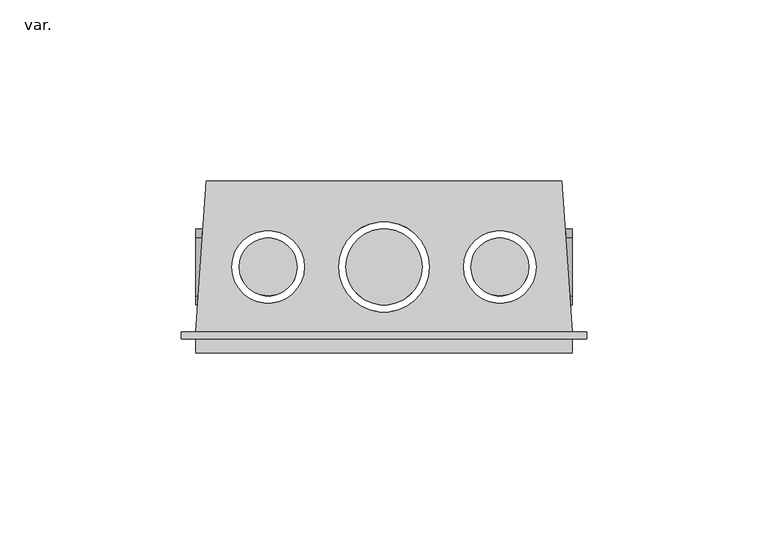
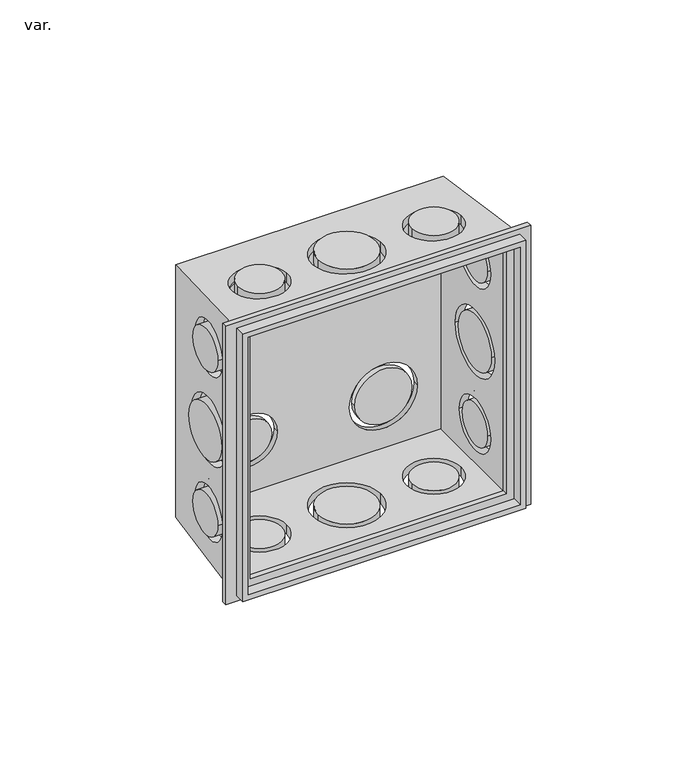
"""IFC4 building model written with IfcOpenShell, lengths in millimetres: pipe fitting geometry, AmancoWavin_ConexõesdoConduite_LinhaEletricaSoldRoscCaixa4x4 : var.."""

from ifc_helpers import new_model, si_unit, point, frame, frame_2d, origin, place, context, project, spatial, polyline, circle_curve, ellipse_curve, trimmed, segment, composite_curve, outline, extrude, source, transform, mapped, element, save
from ifc_brep_helpers import plane_surface, cylinder_surface, revolved_surface, advanced_brep


def var_4e7530ae(model_context):
    return source(origin(), model_context, "Body", "SolidModel", [
        extrude(outline(composite_curve([segment(trimmed(circle_curve(frame_2d((23.75, 32.0)), 8.0), [point((31.75, 32.0))], [point((15.75, 32.0))], False, "CARTESIAN"), True, "CONTINUOUS"), segment(trimmed(circle_curve(frame_2d((23.75, 32.0)), 8.0), [point((15.75, 32.0))], [point((31.75, 32.0))], False, "CARTESIAN"), True, "CONTINUOUS")], self_intersect=False)), frame((47.0840519, 0.0, 0.0), z_axis=(1.0, 0.0, 0.0), x_axis=(0.0, 1.0, 0.0)), (0.0, 0.0, 1.0), 4.9159481),
        extrude(outline(composite_curve([segment(trimmed(circle_curve(frame_2d((23.75, 0.0)), 10.5), [point((34.25, 0.0))], [point((13.25, 0.0))], False, "CARTESIAN"), True, "CONTINUOUS"), segment(trimmed(circle_curve(frame_2d((23.75, 0.0)), 10.5), [point((13.25, 0.0))], [point((34.25, 0.0))], False, "CARTESIAN"), True, "CONTINUOUS")], self_intersect=False)), frame((47.0840519, 0.0, 0.0), z_axis=(1.0, 0.0, 0.0), x_axis=(0.0, 1.0, 0.0)), (0.0, 0.0, 1.0), 4.9159481),
        extrude(outline(composite_curve([segment(trimmed(circle_curve(frame_2d((23.75, -32.0)), 8.0), [point((31.75, -32.0))], [point((15.75, -32.0))], False, "CARTESIAN"), True, "CONTINUOUS"), segment(trimmed(circle_curve(frame_2d((23.75, -32.0)), 8.0), [point((15.75, -32.0))], [point((31.75, -32.0))], False, "CARTESIAN"), True, "CONTINUOUS")], self_intersect=False)), frame((47.0840519, 0.0, 0.0), z_axis=(1.0, 0.0, 0.0), x_axis=(0.0, 1.0, 0.0)), (0.0, 0.0, 1.0), 4.9159481),
        extrude(outline(composite_curve([segment(trimmed(circle_curve(frame_2d((23.75, 32.0)), 8.0), [point((31.75, 32.0))], [point((15.75, 32.0))], False, "CARTESIAN"), True, "CONTINUOUS"), segment(trimmed(circle_curve(frame_2d((23.75, 32.0)), 8.0), [point((15.75, 32.0))], [point((31.75, 32.0))], False, "CARTESIAN"), True, "CONTINUOUS")], self_intersect=False)), frame((-52.0, 0.0, 0.0), z_axis=(1.0, 0.0, 0.0), x_axis=(0.0, 1.0, 0.0)), (0.0, 0.0, 1.0), 4.9159481),
        extrude(outline(composite_curve([segment(trimmed(circle_curve(frame_2d((23.75, 0.0)), 10.5), [point((34.25, 0.0))], [point((13.25, 0.0))], False, "CARTESIAN"), True, "CONTINUOUS"), segment(trimmed(circle_curve(frame_2d((23.75, 0.0)), 10.5), [point((13.25, 0.0))], [point((34.25, 0.0))], False, "CARTESIAN"), True, "CONTINUOUS")], self_intersect=False)), frame((-52.0, 0.0, 0.0), z_axis=(1.0, 0.0, 0.0), x_axis=(0.0, 1.0, 0.0)), (0.0, 0.0, 1.0), 4.9159481),
        extrude(outline(composite_curve([segment(trimmed(circle_curve(frame_2d((23.75, -32.0)), 8.0), [point((31.75, -32.0))], [point((15.75, -32.0))], False, "CARTESIAN"), True, "CONTINUOUS"), segment(trimmed(circle_curve(frame_2d((23.75, -32.0)), 8.0), [point((15.75, -32.0))], [point((31.75, -32.0))], False, "CARTESIAN"), True, "CONTINUOUS")], self_intersect=False)), frame((-52.0, 0.0, 0.0), z_axis=(1.0, 0.0, 0.0), x_axis=(0.0, 1.0, 0.0)), (0.0, 0.0, 1.0), 4.9159481),
        extrude(outline(polyline([(-52.0, -52.0), (-52.0, 52.0), (52.0, 52.0), (52.0, -52.0), (-52.0, -52.0)]), holes=[polyline([(-50.0, -50.0), (50.0, -50.0), (50.0, 50.0), (-50.0, 50.0), (-50.0, -50.0)])]), frame((0.0, 0.0, 0.0), z_axis=(0.0, 1.0, 0.0), x_axis=(0.0, 0.0, 1.0)), (0.0, 0.0, 1.0), 3.8),
        extrude(outline(polyline([(54.15, 56.0), (54.15, -56.0), (-54.15, -56.0), (-54.15, 56.0), (54.15, 56.0)]), holes=[polyline([(-47.0840519, -47.0840519), (47.0840519, -47.0840519), (47.0840519, 47.0840519), (-47.0840519, 47.0840519), (-47.0840519, -47.0840519)])]), frame((0.0, 3.8, 0.0), z_axis=(0.0, 1.0, 0.0), x_axis=(0.0, 0.0, 1.0)), (0.0, 0.0, 1.0), 2.0),
        advanced_brep(
        [(49.0840519, 47.5, 49.0840519), (49.0840519, 47.5, -49.0840519), (-49.0840519, 47.5, -49.0840519), (-49.0840519, 47.5, 49.0840519), (-35.5, 47.5, 27.08), (-10.5, 47.5, 27.08), (-33.0, 47.5, -27.08), (-13.0, 47.5, -27.08), (16.0, 47.5, 27.08), (36.0, 47.5, 27.08), (13.5, 47.5, -27.08), (38.5, 47.5, -27.08), (52.0, 5.8, 52.0), (-52.0, 5.8, 52.0), (-52.0, 5.8, -52.0), (52.0, 5.8, -52.0), (47.0840519, 5.8, 47.0840519), (47.0840519, 5.8, -47.0840519), (-47.0840519, 5.8, -47.0840519), (-47.0840519, 5.8, 47.0840519), (50.0455456, 33.75, 32.0), (51.4440818, 13.75, 32.0), (49.8707286, 36.25, 0.0), (51.6188989, 11.25, 0.0), (50.0455456, 33.75, -32.0), (51.4440818, 13.75, -32.0), (-12.5, 23.75, -50.7448137), (12.5, 23.75, -50.7448137), (-42.0, 23.75, -50.7448137), (-22.0, 23.75, -50.7448137), (22.0, 23.75, -50.7448137), (42.0, 23.75, -50.7448137), (-51.4440818, 13.75, 32.0), (-50.0455456, 33.75, 32.0), (-51.6188989, 11.25, 0.0), (-49.8707286, 36.25, 0.0), (-51.4440818, 13.75, -32.0), (-50.0455456, 33.75, -32.0), (12.5, 23.75, 50.7448137), (-12.5, 23.75, 50.7448137), (-22.0, 23.75, 50.7448137), (-42.0, 23.75, 50.7448137), (42.0, 23.75, 50.7448137), (22.0, 23.75, 50.7448137), (47.0840519, 45.5, 47.0840519), (-47.0840519, 45.5, 47.0840519), (-47.0840519, 45.5, -47.0840519), (47.0840519, 45.5, -47.0840519), (-10.5, 45.5, 27.08), (-35.5, 45.5, 27.08), (-13.0, 45.5, -27.08), (-33.0, 45.5, -27.08), (36.0, 45.5, 27.08), (16.0, 45.5, 27.08), (38.5, 45.5, -27.08), (13.5, 45.5, -27.08), (47.0840519, 13.75, 32.0), (47.0840519, 33.75, 32.0), (47.0840519, 11.25, 0.0), (47.0840519, 36.25, 0.0), (47.0840519, 13.75, -32.0), (47.0840519, 33.75, -32.0), (12.5, 23.75, -47.0840519), (-12.5, 23.75, -47.0840519), (-22.0, 23.75, -47.0840519), (-42.0, 23.75, -47.0840519), (42.0, 23.75, -47.0840519), (22.0, 23.75, -47.0840519), (-47.0840519, 33.75, 32.0), (-47.0840519, 13.75, 32.0), (-47.0840519, 36.25, 0.0), (-47.0840519, 11.25, 0.0), (-47.0840519, 33.75, -32.0), (-47.0840519, 13.75, -32.0), (-12.5, 23.75, 47.0840519), (12.5, 23.75, 47.0840519), (-42.0, 23.75, 47.0840519), (-22.0, 23.75, 47.0840519), (22.0, 23.75, 47.0840519), (42.0, 23.75, 47.0840519)],
        [
            (0, 1),
            (1, 2),
            (2, 3),
            (3, 0),
            (4, 5, circle_curve(frame((-23.0, 47.5, 27.08), z_axis=(0.0, -1.0, 0.0), x_axis=(-1.0, 0.0, 0.0)), 12.5)),
            (5, 4, circle_curve(frame((-23.0, 47.5, 27.08), z_axis=(0.0, -1.0, 0.0), x_axis=(-1.0, 0.0, 0.0)), 12.5)),
            (6, 7, circle_curve(frame((-23.0, 47.5, -27.08), z_axis=(0.0, -1.0, 0.0), x_axis=(-1.0, 0.0, 0.0)), 10.0)),
            (7, 6, circle_curve(frame((-23.0, 47.5, -27.08), z_axis=(0.0, -1.0, 0.0), x_axis=(-1.0, 0.0, 0.0)), 10.0)),
            (8, 9, circle_curve(frame((26.0, 47.5, 27.08), z_axis=(0.0, -1.0, 0.0), x_axis=(-1.0, 0.0, 0.0)), 10.0)),
            (9, 8, circle_curve(frame((26.0, 47.5, 27.08), z_axis=(0.0, -1.0, 0.0), x_axis=(-1.0, 0.0, 0.0)), 10.0)),
            (10, 11, circle_curve(frame((26.0, 47.5, -27.08), z_axis=(0.0, -1.0, 0.0), x_axis=(-1.0, 0.0, 0.0)), 12.5)),
            (11, 10, circle_curve(frame((26.0, 47.5, -27.08), z_axis=(0.0, -1.0, 0.0), x_axis=(-1.0, 0.0, 0.0)), 12.5)),
            (12, 13),
            (13, 14),
            (14, 15),
            (15, 12),
            (16, 17),
            (17, 18),
            (18, 19),
            (19, 16),
            (0, 12),
            (15, 1),
            (20, 21, ellipse_curve(frame((50.7448137, 23.75, 32.0), z_axis=(-0.9975640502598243, -0.06975647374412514, 0.0), x_axis=(-0.06975647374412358, 0.9975640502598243, 0.0)), 10.024419, 10.0)),
            (21, 20, ellipse_curve(frame((50.7448137, 23.75, 32.0), z_axis=(-0.9975640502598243, -0.06975647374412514, 0.0), x_axis=(-0.06975647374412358, 0.9975640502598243, 0.0)), 10.024419, 10.0)),
            (22, 23, ellipse_curve(frame((50.7448137, 23.75, 0.0), z_axis=(-0.9975640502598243, -0.06975647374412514, 0.0), x_axis=(-0.06975647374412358, 0.9975640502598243, 0.0)), 12.5305237, 12.5)),
            (23, 22, ellipse_curve(frame((50.7448137, 23.75, 0.0), z_axis=(-0.9975640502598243, -0.06975647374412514, 0.0), x_axis=(-0.06975647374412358, 0.9975640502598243, 0.0)), 12.5305237, 12.5)),
            (24, 25, ellipse_curve(frame((50.7448137, 23.75, -32.0), z_axis=(-0.9975640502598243, -0.06975647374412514, 0.0), x_axis=(-0.06975647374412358, 0.9975640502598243, 0.0)), 10.024419, 10.0)),
            (25, 24, ellipse_curve(frame((50.7448137, 23.75, -32.0), z_axis=(-0.9975640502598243, -0.06975647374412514, 0.0), x_axis=(-0.06975647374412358, 0.9975640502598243, 0.0)), 10.024419, 10.0)),
            (14, 2),
            (26, 27, ellipse_curve(frame((0.0, 23.75, -50.7448137), z_axis=(0.0, -0.06975647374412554, 0.9975640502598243), x_axis=(0.0, 0.9975640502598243, 0.06975647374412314)), 12.5305237, 12.5)),
            (27, 26, ellipse_curve(frame((0.0, 23.75, -50.7448137), z_axis=(0.0, -0.06975647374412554, 0.9975640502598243), x_axis=(0.0, 0.9975640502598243, 0.06975647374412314)), 12.5305237, 12.5)),
            (28, 29, ellipse_curve(frame((-32.0, 23.75, -50.7448137), z_axis=(0.0, -0.06975647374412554, 0.9975640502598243), x_axis=(0.0, 0.9975640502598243, 0.06975647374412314)), 10.024419, 10.0)),
            (29, 28, ellipse_curve(frame((-32.0, 23.75, -50.7448137), z_axis=(0.0, -0.06975647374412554, 0.9975640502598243), x_axis=(0.0, 0.9975640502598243, 0.06975647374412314)), 10.024419, 10.0)),
            (30, 31, ellipse_curve(frame((32.0, 23.75, -50.7448137), z_axis=(0.0, -0.06975647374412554, 0.9975640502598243), x_axis=(0.0, 0.9975640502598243, 0.06975647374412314)), 10.024419, 10.0)),
            (31, 30, ellipse_curve(frame((32.0, 23.75, -50.7448137), z_axis=(0.0, -0.06975647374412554, 0.9975640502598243), x_axis=(0.0, 0.9975640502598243, 0.06975647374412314)), 10.024419, 10.0)),
            (13, 3),
            (32, 33, ellipse_curve(frame((-50.7448137, 23.75, 32.0), z_axis=(0.9975640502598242, -0.06975647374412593, 0.0), x_axis=(-0.06975647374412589, -0.9975640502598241, 0.0)), 10.024419, 10.0)),
            (33, 32, ellipse_curve(frame((-50.7448137, 23.75, 32.0), z_axis=(0.9975640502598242, -0.06975647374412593, 0.0), x_axis=(-0.06975647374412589, -0.9975640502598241, 0.0)), 10.024419, 10.0)),
            (34, 35, ellipse_curve(frame((-50.7448137, 23.75, 0.0), z_axis=(0.9975640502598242, -0.06975647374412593, 0.0), x_axis=(-0.06975647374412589, -0.9975640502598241, 0.0)), 12.5305237, 12.5)),
            (35, 34, ellipse_curve(frame((-50.7448137, 23.75, 0.0), z_axis=(0.9975640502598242, -0.06975647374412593, 0.0), x_axis=(-0.06975647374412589, -0.9975640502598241, 0.0)), 12.5305237, 12.5)),
            (36, 37, ellipse_curve(frame((-50.7448137, 23.75, -32.0), z_axis=(0.9975640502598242, -0.06975647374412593, 0.0), x_axis=(-0.06975647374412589, -0.9975640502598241, 0.0)), 10.024419, 10.0)),
            (37, 36, ellipse_curve(frame((-50.7448137, 23.75, -32.0), z_axis=(0.9975640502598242, -0.06975647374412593, 0.0), x_axis=(-0.06975647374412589, -0.9975640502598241, 0.0)), 10.024419, 10.0)),
            (38, 39, ellipse_curve(frame((0.0, 23.75, 50.7448137), z_axis=(0.0, -0.06975647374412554, -0.9975640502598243), x_axis=(0.0, -0.9975640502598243, 0.06975647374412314)), 12.5305237, 12.5)),
            (39, 38, ellipse_curve(frame((0.0, 23.75, 50.7448137), z_axis=(0.0, -0.06975647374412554, -0.9975640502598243), x_axis=(0.0, -0.9975640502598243, 0.06975647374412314)), 12.5305237, 12.5)),
            (40, 41, ellipse_curve(frame((-32.0, 23.75, 50.7448137), z_axis=(0.0, -0.06975647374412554, -0.9975640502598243), x_axis=(0.0, -0.9975640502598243, 0.06975647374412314)), 10.024419, 10.0)),
            (41, 40, ellipse_curve(frame((-32.0, 23.75, 50.7448137), z_axis=(0.0, -0.06975647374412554, -0.9975640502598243), x_axis=(0.0, -0.9975640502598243, 0.06975647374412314)), 10.024419, 10.0)),
            (42, 43, ellipse_curve(frame((32.0, 23.75, 50.7448137), z_axis=(0.0, -0.06975647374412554, -0.9975640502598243), x_axis=(0.0, -0.9975640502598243, 0.06975647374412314)), 10.024419, 10.0)),
            (43, 42, ellipse_curve(frame((32.0, 23.75, 50.7448137), z_axis=(0.0, -0.06975647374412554, -0.9975640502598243), x_axis=(0.0, -0.9975640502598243, 0.06975647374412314)), 10.024419, 10.0)),
            (44, 45),
            (45, 46),
            (46, 47),
            (47, 44),
            (48, 49, circle_curve(frame((-23.0, 45.5, 27.08), z_axis=(0.0, 1.0, 0.0), x_axis=(-1.0, 0.0, 0.0)), 12.5)),
            (49, 48, circle_curve(frame((-23.0, 45.5, 27.08), z_axis=(0.0, 1.0, 0.0), x_axis=(-1.0, 0.0, 0.0)), 12.5)),
            (50, 51, circle_curve(frame((-23.0, 45.5, -27.08), z_axis=(0.0, 1.0, 0.0), x_axis=(-1.0, 0.0, 0.0)), 10.0)),
            (51, 50, circle_curve(frame((-23.0, 45.5, -27.08), z_axis=(0.0, 1.0, 0.0), x_axis=(-1.0, 0.0, 0.0)), 10.0)),
            (52, 53, circle_curve(frame((26.0, 45.5, 27.08), z_axis=(0.0, 1.0, 0.0), x_axis=(-1.0, 0.0, 0.0)), 10.0)),
            (53, 52, circle_curve(frame((26.0, 45.5, 27.08), z_axis=(0.0, 1.0, 0.0), x_axis=(-1.0, 0.0, 0.0)), 10.0)),
            (54, 55, circle_curve(frame((26.0, 45.5, -27.08), z_axis=(0.0, 1.0, 0.0), x_axis=(-1.0, 0.0, 0.0)), 12.5)),
            (55, 54, circle_curve(frame((26.0, 45.5, -27.08), z_axis=(0.0, 1.0, 0.0), x_axis=(-1.0, 0.0, 0.0)), 12.5)),
            (47, 17),
            (16, 44),
            (56, 57, circle_curve(frame((47.0840519, 23.75, 32.0), z_axis=(1.0, 0.0, 0.0), x_axis=(0.0, -1.0, 0.0)), 10.0)),
            (57, 56, circle_curve(frame((47.0840519, 23.75, 32.0), z_axis=(1.0, 0.0, 0.0), x_axis=(0.0, -1.0, 0.0)), 10.0)),
            (58, 59, circle_curve(frame((47.0840519, 23.75, 0.0), z_axis=(1.0, 0.0, 0.0), x_axis=(0.0, -1.0, 0.0)), 12.5)),
            (59, 58, circle_curve(frame((47.0840519, 23.75, 0.0), z_axis=(1.0, 0.0, 0.0), x_axis=(0.0, -1.0, 0.0)), 12.5)),
            (60, 61, circle_curve(frame((47.0840519, 23.75, -32.0), z_axis=(1.0, 0.0, 0.0), x_axis=(0.0, -1.0, 0.0)), 10.0)),
            (61, 60, circle_curve(frame((47.0840519, 23.75, -32.0), z_axis=(1.0, 0.0, 0.0), x_axis=(0.0, -1.0, 0.0)), 10.0)),
            (46, 18),
            (62, 63, circle_curve(frame((0.0, 23.75, -47.0840519), z_axis=(0.0, 0.0, -1.0), x_axis=(1.0, 0.0, 0.0)), 12.5)),
            (63, 62, circle_curve(frame((0.0, 23.75, -47.0840519), z_axis=(0.0, 0.0, -1.0), x_axis=(1.0, 0.0, 0.0)), 12.5)),
            (64, 65, circle_curve(frame((-32.0, 23.75, -47.0840519), z_axis=(0.0, 0.0, -1.0), x_axis=(1.0, 0.0, 0.0)), 10.0)),
            (65, 64, circle_curve(frame((-32.0, 23.75, -47.0840519), z_axis=(0.0, 0.0, -1.0), x_axis=(1.0, 0.0, 0.0)), 10.0)),
            (66, 67, circle_curve(frame((32.0, 23.75, -47.0840519), z_axis=(0.0, 0.0, -1.0), x_axis=(1.0, 0.0, 0.0)), 10.0)),
            (67, 66, circle_curve(frame((32.0, 23.75, -47.0840519), z_axis=(0.0, 0.0, -1.0), x_axis=(1.0, 0.0, 0.0)), 10.0)),
            (45, 19),
            (68, 69, circle_curve(frame((-47.0840519, 23.75, 32.0), z_axis=(-1.0, 0.0, 0.0), x_axis=(0.0, -1.0, 0.0)), 10.0)),
            (69, 68, circle_curve(frame((-47.0840519, 23.75, 32.0), z_axis=(-1.0, 0.0, 0.0), x_axis=(0.0, -1.0, 0.0)), 10.0)),
            (70, 71, circle_curve(frame((-47.0840519, 23.75, 0.0), z_axis=(-1.0, 0.0, 0.0), x_axis=(0.0, -1.0, 0.0)), 12.5)),
            (71, 70, circle_curve(frame((-47.0840519, 23.75, 0.0), z_axis=(-1.0, 0.0, 0.0), x_axis=(0.0, -1.0, 0.0)), 12.5)),
            (72, 73, circle_curve(frame((-47.0840519, 23.75, -32.0), z_axis=(-1.0, 0.0, 0.0), x_axis=(0.0, -1.0, 0.0)), 10.0)),
            (73, 72, circle_curve(frame((-47.0840519, 23.75, -32.0), z_axis=(-1.0, 0.0, 0.0), x_axis=(0.0, -1.0, 0.0)), 10.0)),
            (74, 75, circle_curve(frame((0.0, 23.75, 47.0840519), z_axis=(0.0, 0.0, 1.0), x_axis=(1.0, 0.0, 0.0)), 12.5)),
            (75, 74, circle_curve(frame((0.0, 23.75, 47.0840519), z_axis=(0.0, 0.0, 1.0), x_axis=(1.0, 0.0, 0.0)), 12.5)),
            (76, 77, circle_curve(frame((-32.0, 23.75, 47.0840519), z_axis=(0.0, 0.0, 1.0), x_axis=(1.0, 0.0, 0.0)), 10.0)),
            (77, 76, circle_curve(frame((-32.0, 23.75, 47.0840519), z_axis=(0.0, 0.0, 1.0), x_axis=(1.0, 0.0, 0.0)), 10.0)),
            (78, 79, circle_curve(frame((32.0, 23.75, 47.0840519), z_axis=(0.0, 0.0, 1.0), x_axis=(1.0, 0.0, 0.0)), 10.0)),
            (79, 78, circle_curve(frame((32.0, 23.75, 47.0840519), z_axis=(0.0, 0.0, 1.0), x_axis=(1.0, 0.0, 0.0)), 10.0)),
            (4, 49),
            (48, 5),
            (6, 51),
            (50, 7),
            (8, 53),
            (52, 9),
            (10, 55),
            (54, 11),
            (26, 63),
            (62, 27),
            (38, 75),
            (74, 39),
            (28, 65),
            (64, 29),
            (40, 77),
            (76, 41),
            (30, 67),
            (66, 31),
            (42, 79),
            (78, 43),
            (20, 57),
            (56, 21),
            (32, 69),
            (68, 33),
            (22, 59),
            (58, 23),
            (34, 71),
            (70, 35),
            (24, 61),
            (60, 25),
            (36, 73),
            (72, 37),
        ],
        [
            plane_surface(frame((0.0, 47.5, 0.0), z_axis=(0.0, 1.0, 0.0), x_axis=(0.0, 0.0, -1.0))),
            plane_surface(frame((0.0, 5.8, 0.0), z_axis=(0.0, -1.0, 0.0), x_axis=(0.0, 0.0, -1.0))),
            plane_surface(frame((52.0, 5.8, 0.0), z_axis=(0.9975640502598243, 0.06975647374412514, 0.0), x_axis=(0.0, 0.0, -1.0))),
            plane_surface(frame((0.0, 5.8, -52.0), z_axis=(0.0, 0.06975647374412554, -0.9975640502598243), x_axis=(-1.0, 0.0, 0.0))),
            plane_surface(frame((-52.0, 5.8, 0.0), z_axis=(-0.9975640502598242, 0.06975647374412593, 0.0), x_axis=(0.0, 0.0, 1.0))),
            plane_surface(frame((0.0, 5.8, 52.0), z_axis=(0.0, 0.06975647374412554, 0.9975640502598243), x_axis=(1.0, 0.0, 0.0))),
            plane_surface(frame((47.0840519, 45.5, 47.0840519), z_axis=(0.0, -1.0, 0.0), x_axis=(0.0, 0.0, -1.0))),
            plane_surface(frame((47.0840519, 45.5, 47.0840519), z_axis=(-1.0, 0.0, 0.0), x_axis=(0.0, -1.0, 0.0))),
            plane_surface(frame((47.0840519, 45.5, -47.0840519), z_axis=(0.0, 0.0, 1.0), x_axis=(0.0, -1.0, 0.0))),
            plane_surface(frame((-47.0840519, 45.5, -47.0840519), z_axis=(1.0, 0.0, 0.0), x_axis=(0.0, -1.0, 0.0))),
            plane_surface(frame((-47.0840519, 45.5, 47.0840519), z_axis=(0.0, 0.0, -1.0), x_axis=(0.0, -1.0, 0.0))),
            revolved_surface(polyline([(-35.5, 47.5, 27.08), (-35.5, 45.5, 27.08)]), (-23.0, 45.5, 27.08), (0.0, 1.0, 0.0)),
            revolved_surface(polyline([(-33.0, 47.5, -27.08), (-33.0, 45.5, -27.08)]), (-23.0, 0.0, -27.08), (0.0, 1.0, 0.0)),
            revolved_surface(polyline([(16.0, 47.5, 27.08), (16.0, 45.5, 27.08)]), (26.0, 0.0, 27.08), (0.0, 1.0, 0.0)),
            revolved_surface(polyline([(13.5, 47.5, -27.08), (13.5, 45.5, -27.08)]), (26.0, 0.0, -27.08), (0.0, 1.0, 0.0)),
            revolved_surface(polyline([(12.5, 23.75, -47.0840519), (12.5, 23.75, -51.618898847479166)]), (0.0, 23.75, -52.0), (0.0, 0.0, 1.0)),
            revolved_surface(polyline([(12.5, 23.75, 51.61889884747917), (12.5, 23.75, 47.08405189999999)]), (0.0, 23.75, -52.0), (0.0, 0.0, 1.0)),
            revolved_surface(polyline([(-22.0, 23.75, -47.0840519), (-22.0, 23.75, -51.44408182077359)]), (-32.0, 23.75, 0.0), (0.0, 0.0, 1.0)),
            revolved_surface(polyline([(-22.0, 23.75, 51.44408182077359), (-22.0, 23.75, 47.0840519)]), (-32.0, 23.75, 0.0), (0.0, 0.0, 1.0)),
            revolved_surface(polyline([(42.0, 23.75, -47.0840519), (42.0, 23.75, -51.44408182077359)]), (32.0, 23.75, 0.0), (0.0, 0.0, 1.0)),
            revolved_surface(polyline([(42.0, 23.75, 51.44408182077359), (42.0, 23.75, 47.0840519)]), (32.0, 23.75, 0.0), (0.0, 0.0, 1.0)),
            revolved_surface(polyline([(47.0840519, 13.75, 32.0), (51.4440818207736, 13.75, 32.0)]), (64.076345, 23.75, 32.0), (-1.0, 0.0, 0.0)),
            revolved_surface(polyline([(-51.44408182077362, 13.75, 32.0), (-47.08405189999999, 13.75, 32.0)]), (64.076345, 23.75, 32.0), (-1.0, 0.0, 0.0)),
            revolved_surface(polyline([(47.0840519, 11.25, 0.0), (51.6188989, 11.25, 0.0)]), (0.0, 23.75, 0.0), (-1.0, 0.0, 0.0)),
            revolved_surface(polyline([(-51.6188989, 11.25, 0.0), (-47.0840519, 11.25, 0.0)]), (0.0, 23.75, 0.0), (-1.0, 0.0, 0.0)),
            revolved_surface(polyline([(47.0840519, 13.75, -32.0), (51.4440818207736, 13.75, -32.0)]), (0.0, 23.75, -32.0), (-1.0, 0.0, 0.0)),
            revolved_surface(polyline([(-51.44408182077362, 13.75, -32.0), (-47.0840519, 13.75, -32.0)]), (0.0, 23.75, -32.0), (-1.0, 0.0, 0.0)),
        ],
        [
            (0, [[1, 2, 3, 4], [5, 6], [7, 8], [9, 10], [11, 12]]),
            (1, [[13, 14, 15, 16], [17, 18, 19, 20]]),
            (2, [[-1, 21, -16, 22], [23, 24], [25, 26], [27, 28]]),
            (3, [[-2, -22, -15, 29], [30, 31], [32, 33], [34, 35]]),
            (4, [[-3, -29, -14, 36], [37, 38], [39, 40], [41, 42]]),
            (5, [[-4, -36, -13, -21], [43, 44], [45, 46], [47, 48]]),
            (6, [[49, 50, 51, 52], [53, 54], [55, 56], [57, 58], [59, 60]]),
            (7, [[-52, 61, -17, 62], [63, 64], [65, 66], [67, 68]]),
            (8, [[-51, 69, -18, -61], [70, 71], [72, 73], [74, 75]]),
            (9, [[-50, 76, -19, -69], [77, 78], [79, 80], [81, 82]]),
            (10, [[-49, -62, -20, -76], [83, 84], [85, 86], [87, 88]]),
            (11, [[89, -53, 90, -5]]),
            (11, [[-89, -6, -90, -54]]),
            (12, [[91, -55, 92, -7]]),
            (12, [[-91, -8, -92, -56]]),
            (13, [[93, -57, 94, -9]]),
            (13, [[-93, -10, -94, -58]]),
            (14, [[95, -59, 96, -11]]),
            (14, [[-95, -12, -96, -60]]),
            (15, [[-30, 97, -70, 98]]),
            (16, [[-43, 99, -83, 100]]),
            (15, [[-31, -98, -71, -97]]),
            (16, [[-44, -100, -84, -99]]),
            (17, [[-32, 101, -72, 102]]),
            (18, [[-45, 103, -85, 104]]),
            (17, [[-33, -102, -73, -101]]),
            (18, [[-46, -104, -86, -103]]),
            (19, [[-34, 105, -74, 106]]),
            (20, [[-47, 107, -87, 108]]),
            (19, [[-35, -106, -75, -105]]),
            (20, [[-48, -108, -88, -107]]),
            (21, [[-23, 109, -63, 110]]),
            (22, [[-37, 111, -77, 112]]),
            (21, [[-24, -110, -64, -109]]),
            (22, [[-38, -112, -78, -111]]),
            (23, [[-25, 113, -65, 114]]),
            (24, [[-39, 115, -79, 116]]),
            (23, [[-26, -114, -66, -113]]),
            (24, [[-40, -116, -80, -115]]),
            (25, [[-27, 117, -67, 118]]),
            (26, [[-41, 119, -81, 120]]),
            (25, [[-28, -118, -68, -117]]),
            (26, [[-42, -120, -82, -119]]),
        ],
    ),
        advanced_brep(
        [(-33.5, 47.5, 27.08), (-12.5, 47.5, 27.08), (-12.5, 45.5, 27.08), (-33.5, 45.5, 27.08)],
        [
            (0, 1, circle_curve(frame((-23.0, 47.5, 27.08), z_axis=(0.0, 1.0, 0.0), x_axis=(-1.0, 0.0, 0.0)), 10.5)),
            (1, 0, circle_curve(frame((-23.0, 47.5, 27.08), z_axis=(0.0, 1.0, 0.0), x_axis=(-1.0, 0.0, 0.0)), 10.5)),
            (2, 3, circle_curve(frame((-23.0, 45.5, 27.08), z_axis=(0.0, -1.0, 0.0), x_axis=(-1.0, 0.0, 0.0)), 10.5)),
            (3, 2, circle_curve(frame((-23.0, 45.5, 27.08), z_axis=(0.0, -1.0, 0.0), x_axis=(-1.0, 0.0, 0.0)), 10.5)),
            (0, 3),
            (2, 1),
        ],
        [
            plane_surface(frame((0.0, 47.5, 0.0), z_axis=(0.0, 1.0, 0.0), x_axis=(0.0, 0.0, -1.0))),
            plane_surface(frame((47.0840519, 45.5, 47.0840519), z_axis=(0.0, -1.0, 0.0), x_axis=(0.0, 0.0, -1.0))),
            cylinder_surface(frame((-23.0, 0.0, 27.08), z_axis=(0.0, -1.0, 0.0), x_axis=(-1.0, 0.0, 0.0)), 10.5),
        ],
        [
            (0, [[1, 2]]),
            (1, [[3, 4]]),
            (2, [[5, -3, 6, -1]]),
            (2, [[-5, -2, -6, -4]]),
        ],
    ),
        advanced_brep(
        [(18.0, 47.5, 27.08), (34.0, 47.5, 27.08), (34.0, 45.5, 27.08), (18.0, 45.5, 27.08)],
        [
            (0, 1, circle_curve(frame((26.0, 47.5, 27.08), z_axis=(0.0, 1.0, 0.0), x_axis=(-1.0, 0.0, 0.0)), 8.0)),
            (1, 0, circle_curve(frame((26.0, 47.5, 27.08), z_axis=(0.0, 1.0, 0.0), x_axis=(-1.0, 0.0, 0.0)), 8.0)),
            (2, 3, circle_curve(frame((26.0, 45.5, 27.08), z_axis=(0.0, -1.0, 0.0), x_axis=(-1.0, 0.0, 0.0)), 8.0)),
            (3, 2, circle_curve(frame((26.0, 45.5, 27.08), z_axis=(0.0, -1.0, 0.0), x_axis=(-1.0, 0.0, 0.0)), 8.0)),
            (0, 3),
            (2, 1),
        ],
        [
            plane_surface(frame((0.0, 47.5, 0.0), z_axis=(0.0, 1.0, 0.0), x_axis=(0.0, 0.0, -1.0))),
            plane_surface(frame((47.0840519, 45.5, 47.0840519), z_axis=(0.0, -1.0, 0.0), x_axis=(0.0, 0.0, -1.0))),
            cylinder_surface(frame((26.0, 0.0, 27.08), z_axis=(0.0, -1.0, 0.0), x_axis=(-1.0, 0.0, 0.0)), 8.0),
        ],
        [
            (0, [[1, 2]]),
            (1, [[3, 4]]),
            (2, [[5, -3, 6, -1]]),
            (2, [[-5, -2, -6, -4]]),
        ],
    ),
        advanced_brep(
        [(-31.0, 47.5, -27.08), (-15.0, 47.5, -27.08), (-15.0, 45.5, -27.08), (-31.0, 45.5, -27.08)],
        [
            (0, 1, circle_curve(frame((-23.0, 47.5, -27.08), z_axis=(0.0, 1.0, 0.0), x_axis=(-1.0, 0.0, 0.0)), 8.0)),
            (1, 0, circle_curve(frame((-23.0, 47.5, -27.08), z_axis=(0.0, 1.0, 0.0), x_axis=(-1.0, 0.0, 0.0)), 8.0)),
            (2, 3, circle_curve(frame((-23.0, 45.5, -27.08), z_axis=(0.0, -1.0, 0.0), x_axis=(-1.0, 0.0, 0.0)), 8.0)),
            (3, 2, circle_curve(frame((-23.0, 45.5, -27.08), z_axis=(0.0, -1.0, 0.0), x_axis=(-1.0, 0.0, 0.0)), 8.0)),
            (0, 3),
            (2, 1),
        ],
        [
            plane_surface(frame((0.0, 47.5, 0.0), z_axis=(0.0, 1.0, 0.0), x_axis=(0.0, 0.0, -1.0))),
            plane_surface(frame((47.0840519, 45.5, 47.0840519), z_axis=(0.0, -1.0, 0.0), x_axis=(0.0, 0.0, -1.0))),
            cylinder_surface(frame((-23.0, 0.0, -27.08), z_axis=(0.0, -1.0, 0.0), x_axis=(-1.0, 0.0, 0.0)), 8.0),
        ],
        [
            (0, [[1, 2]]),
            (1, [[3, 4]]),
            (2, [[5, -3, 6, -1]]),
            (2, [[-5, -2, -6, -4]]),
        ],
    ),
        advanced_brep(
        [(15.5, 47.5, -27.08), (36.5, 47.5, -27.08), (36.5, 45.5, -27.08), (15.5, 45.5, -27.08)],
        [
            (0, 1, circle_curve(frame((26.0, 47.5, -27.08), z_axis=(0.0, 1.0, 0.0), x_axis=(-1.0, 0.0, 0.0)), 10.5)),
            (1, 0, circle_curve(frame((26.0, 47.5, -27.08), z_axis=(0.0, 1.0, 0.0), x_axis=(-1.0, 0.0, 0.0)), 10.5)),
            (2, 3, circle_curve(frame((26.0, 45.5, -27.08), z_axis=(0.0, -1.0, 0.0), x_axis=(-1.0, 0.0, 0.0)), 10.5)),
            (3, 2, circle_curve(frame((26.0, 45.5, -27.08), z_axis=(0.0, -1.0, 0.0), x_axis=(-1.0, 0.0, 0.0)), 10.5)),
            (0, 3),
            (2, 1),
        ],
        [
            plane_surface(frame((0.0, 47.5, 0.0), z_axis=(0.0, 1.0, 0.0), x_axis=(0.0, 0.0, -1.0))),
            plane_surface(frame((47.0840519, 45.5, 47.0840519), z_axis=(0.0, -1.0, 0.0), x_axis=(0.0, 0.0, -1.0))),
            cylinder_surface(frame((26.0, 0.0, -27.08), z_axis=(0.0, -1.0, 0.0), x_axis=(-1.0, 0.0, 0.0)), 10.5),
        ],
        [
            (0, [[1, 2]]),
            (1, [[3, 4]]),
            (2, [[5, -3, 6, -1]]),
            (2, [[-5, -2, -6, -4]]),
        ],
    ),
        advanced_brep(
        [(-40.0, 23.75, -47.0840519), (-24.0, 23.75, -47.0840519), (-40.0, 23.75, -52.0), (-24.0, 23.75, -52.0)],
        [
            (0, 1, circle_curve(frame((-32.0, 23.75, -47.0840519), z_axis=(0.0, 0.0, 1.0), x_axis=(1.0, 0.0, 0.0)), 8.0)),
            (1, 0, circle_curve(frame((-32.0, 23.75, -47.0840519), z_axis=(0.0, 0.0, 1.0), x_axis=(1.0, 0.0, 0.0)), 8.0)),
            (2, 3, circle_curve(frame((-32.0, 23.75, -52.0), z_axis=(0.0, 0.0, -1.0), x_axis=(1.0, 0.0, 0.0)), 8.0)),
            (3, 2, circle_curve(frame((-32.0, 23.75, -52.0), z_axis=(0.0, 0.0, -1.0), x_axis=(1.0, 0.0, 0.0)), 8.0)),
            (3, 1),
            (0, 2),
        ],
        [
            plane_surface(frame((47.0840519, 45.5, -47.0840519), z_axis=(0.0, 0.0, 1.0), x_axis=(0.0, -1.0, 0.0))),
            plane_surface(frame((-24.0, 23.75, -52.0), z_axis=(0.0, 0.0, -1.0), x_axis=(0.0, -1.0, 0.0))),
            cylinder_surface(frame((-32.0, 23.75, -52.0), z_axis=(0.0, 0.0, 1.0), x_axis=(1.0, 0.0, 0.0)), 8.0),
        ],
        [
            (0, [[1, 2]]),
            (1, [[3, 4]]),
            (2, [[-4, 5, -1, 6]]),
            (2, [[-3, -6, -2, -5]]),
        ],
    ),
        advanced_brep(
        [(-10.5, 23.75, -47.0840519), (10.5, 23.75, -47.0840519), (-10.5, 23.75, -52.0), (10.5, 23.75, -52.0)],
        [
            (0, 1, circle_curve(frame((0.0, 23.75, -47.0840519), z_axis=(0.0, 0.0, 1.0), x_axis=(1.0, 0.0, 0.0)), 10.5)),
            (1, 0, circle_curve(frame((0.0, 23.75, -47.0840519), z_axis=(0.0, 0.0, 1.0), x_axis=(1.0, 0.0, 0.0)), 10.5)),
            (2, 3, circle_curve(frame((0.0, 23.75, -52.0), z_axis=(0.0, 0.0, -1.0), x_axis=(1.0, 0.0, 0.0)), 10.5)),
            (3, 2, circle_curve(frame((0.0, 23.75, -52.0), z_axis=(0.0, 0.0, -1.0), x_axis=(1.0, 0.0, 0.0)), 10.5)),
            (3, 1),
            (0, 2),
        ],
        [
            plane_surface(frame((47.0840519, 45.5, -47.0840519), z_axis=(0.0, 0.0, 1.0), x_axis=(0.0, -1.0, 0.0))),
            plane_surface(frame((-24.0, 23.75, -52.0), z_axis=(0.0, 0.0, -1.0), x_axis=(0.0, -1.0, 0.0))),
            cylinder_surface(frame((0.0, 23.75, 0.0), z_axis=(0.0, 0.0, 1.0), x_axis=(1.0, 0.0, 0.0)), 10.5),
        ],
        [
            (0, [[1, 2]]),
            (1, [[3, 4]]),
            (2, [[-4, 5, -1, 6]]),
            (2, [[-3, -6, -2, -5]]),
        ],
    ),
        advanced_brep(
        [(24.0, 23.75, -47.0840519), (40.0, 23.75, -47.0840519), (24.0, 23.75, -52.0), (40.0, 23.75, -52.0)],
        [
            (0, 1, circle_curve(frame((32.0, 23.75, -47.0840519), z_axis=(0.0, 0.0, 1.0), x_axis=(1.0, 0.0, 0.0)), 8.0)),
            (1, 0, circle_curve(frame((32.0, 23.75, -47.0840519), z_axis=(0.0, 0.0, 1.0), x_axis=(1.0, 0.0, 0.0)), 8.0)),
            (2, 3, circle_curve(frame((32.0, 23.75, -52.0), z_axis=(0.0, 0.0, -1.0), x_axis=(1.0, 0.0, 0.0)), 8.0)),
            (3, 2, circle_curve(frame((32.0, 23.75, -52.0), z_axis=(0.0, 0.0, -1.0), x_axis=(1.0, 0.0, 0.0)), 8.0)),
            (3, 1),
            (0, 2),
        ],
        [
            plane_surface(frame((47.0840519, 45.5, -47.0840519), z_axis=(0.0, 0.0, 1.0), x_axis=(0.0, -1.0, 0.0))),
            plane_surface(frame((-24.0, 23.75, -52.0), z_axis=(0.0, 0.0, -1.0), x_axis=(0.0, -1.0, 0.0))),
            cylinder_surface(frame((32.0, 23.75, 0.0), z_axis=(0.0, 0.0, 1.0), x_axis=(1.0, 0.0, 0.0)), 8.0),
        ],
        [
            (0, [[1, 2]]),
            (1, [[3, 4]]),
            (2, [[-4, 5, -1, 6]]),
            (2, [[-3, -6, -2, -5]]),
        ],
    ),
        advanced_brep(
        [(-24.0, 23.75, 47.0840519), (-40.0, 23.75, 47.0840519), (-40.0, 23.75, 52.0), (-24.0, 23.75, 52.0)],
        [
            (0, 1, circle_curve(frame((-32.0, 23.75, 47.0840519), z_axis=(0.0, 0.0, -1.0), x_axis=(1.0, 0.0, 0.0)), 8.0)),
            (1, 0, circle_curve(frame((-32.0, 23.75, 47.0840519), z_axis=(0.0, 0.0, -1.0), x_axis=(1.0, 0.0, 0.0)), 8.0)),
            (2, 3, circle_curve(frame((-32.0, 23.75, 52.0), z_axis=(0.0, 0.0, 1.0), x_axis=(1.0, 0.0, 0.0)), 8.0)),
            (3, 2, circle_curve(frame((-32.0, 23.75, 52.0), z_axis=(0.0, 0.0, 1.0), x_axis=(1.0, 0.0, 0.0)), 8.0)),
            (2, 1),
            (0, 3),
        ],
        [
            plane_surface(frame((-47.0840519, 45.5, 47.0840519), z_axis=(0.0, 0.0, -1.0), x_axis=(0.0, -1.0, 0.0))),
            plane_surface(frame((-24.0, 23.75, 52.0), z_axis=(0.0, 0.0, 1.0), x_axis=(0.0, 1.0, 0.0))),
            cylinder_surface(frame((-32.0, 23.75, -52.0), z_axis=(0.0, 0.0, 1.0), x_axis=(1.0, 0.0, 0.0)), 8.0),
        ],
        [
            (0, [[1, 2]]),
            (1, [[3, 4]]),
            (2, [[-3, 5, -1, 6]]),
            (2, [[-4, -6, -2, -5]]),
        ],
    ),
        advanced_brep(
        [(10.5, 23.75, 47.0840519), (-10.5, 23.75, 47.0840519), (-10.5, 23.75, 52.0), (10.5, 23.75, 52.0)],
        [
            (0, 1, circle_curve(frame((0.0, 23.75, 47.0840519), z_axis=(0.0, 0.0, -1.0), x_axis=(1.0, 0.0, 0.0)), 10.5)),
            (1, 0, circle_curve(frame((0.0, 23.75, 47.0840519), z_axis=(0.0, 0.0, -1.0), x_axis=(1.0, 0.0, 0.0)), 10.5)),
            (2, 3, circle_curve(frame((0.0, 23.75, 52.0), z_axis=(0.0, 0.0, 1.0), x_axis=(1.0, 0.0, 0.0)), 10.5)),
            (3, 2, circle_curve(frame((0.0, 23.75, 52.0), z_axis=(0.0, 0.0, 1.0), x_axis=(1.0, 0.0, 0.0)), 10.5)),
            (2, 1),
            (0, 3),
        ],
        [
            plane_surface(frame((-47.0840519, 45.5, 47.0840519), z_axis=(0.0, 0.0, -1.0), x_axis=(0.0, -1.0, 0.0))),
            plane_surface(frame((-24.0, 23.75, 52.0), z_axis=(0.0, 0.0, 1.0), x_axis=(0.0, 1.0, 0.0))),
            cylinder_surface(frame((0.0, 23.75, 0.0), z_axis=(0.0, 0.0, 1.0), x_axis=(1.0, 0.0, 0.0)), 10.5),
        ],
        [
            (0, [[1, 2]]),
            (1, [[3, 4]]),
            (2, [[-3, 5, -1, 6]]),
            (2, [[-4, -6, -2, -5]]),
        ],
    ),
        advanced_brep(
        [(40.0, 23.75, 47.0840519), (24.0, 23.75, 47.0840519), (24.0, 23.75, 52.0), (40.0, 23.75, 52.0)],
        [
            (0, 1, circle_curve(frame((32.0, 23.75, 47.0840519), z_axis=(0.0, 0.0, -1.0), x_axis=(1.0, 0.0, 0.0)), 8.0)),
            (1, 0, circle_curve(frame((32.0, 23.75, 47.0840519), z_axis=(0.0, 0.0, -1.0), x_axis=(1.0, 0.0, 0.0)), 8.0)),
            (2, 3, circle_curve(frame((32.0, 23.75, 52.0), z_axis=(0.0, 0.0, 1.0), x_axis=(1.0, 0.0, 0.0)), 8.0)),
            (3, 2, circle_curve(frame((32.0, 23.75, 52.0), z_axis=(0.0, 0.0, 1.0), x_axis=(1.0, 0.0, 0.0)), 8.0)),
            (2, 1),
            (0, 3),
        ],
        [
            plane_surface(frame((-47.0840519, 45.5, 47.0840519), z_axis=(0.0, 0.0, -1.0), x_axis=(0.0, -1.0, 0.0))),
            plane_surface(frame((-24.0, 23.75, 52.0), z_axis=(0.0, 0.0, 1.0), x_axis=(0.0, 1.0, 0.0))),
            cylinder_surface(frame((32.0, 23.75, 0.0), z_axis=(0.0, 0.0, 1.0), x_axis=(1.0, 0.0, 0.0)), 8.0),
        ],
        [
            (0, [[1, 2]]),
            (1, [[3, 4]]),
            (2, [[-3, 5, -1, 6]]),
            (2, [[-4, -6, -2, -5]]),
        ],
    ),
    ])


if __name__ == "__main__":
    model = new_model("IFC4")
    model_context = context("Model", 3, world=origin())
    ifc_project = project(units=[si_unit("LENGTHUNIT", "METRE", prefix="MILLI")], contexts=[model_context])
    site = spatial("IfcSite", under=ifc_project)
    building = spatial("IfcBuilding", under=site)
    placement = place(None, origin())
    var_shape = var_4e7530ae(model_context)
    element("IfcPipeFitting", 1, ObjectType="AmancoWavin_ConexõesdoConduite_LinhaEletricaSoldRoscCaixa4x4 : var.", at=placement, inside=building, context=model_context, shape_type="MappedRepresentation", body=[
        mapped(var_shape, transform((0.0, 0.0, 0.0), x_axis=(1.0, 0.0, 0.0), y_axis=(0.0, 1.0, 0.0), z_axis=(0.0, 0.0, 1.0))),
    ])
    save(model, "model.ifc")
